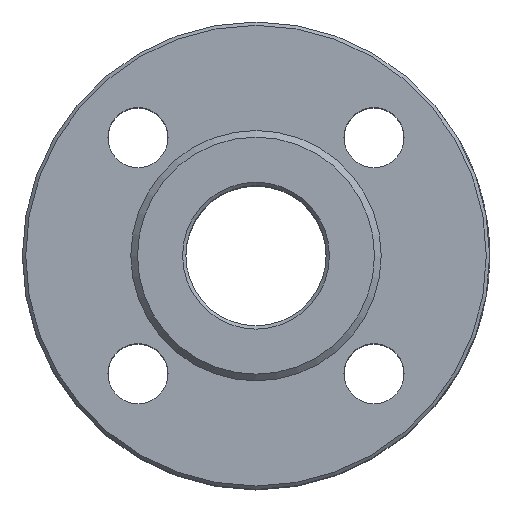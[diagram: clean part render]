
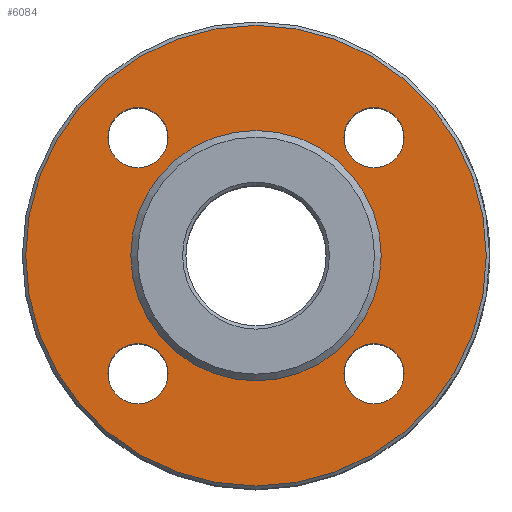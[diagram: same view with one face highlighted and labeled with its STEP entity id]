
A CAD part, top view. The second image highlights one B-rep face of the part: STEP entity #6084.
In plain terms, the highlighted planar face has unit normal (0, 0, 1).
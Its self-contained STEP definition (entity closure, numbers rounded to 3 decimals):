
#218=FACE_BOUND('',#1155,.T.);
#219=FACE_BOUND('',#1156,.T.);
#220=FACE_BOUND('',#1157,.T.);
#221=FACE_BOUND('',#1158,.T.);
#222=FACE_BOUND('',#1159,.T.);
#472=PLANE('',#6636);
#769=FACE_OUTER_BOUND('',#1154,.T.);
#1154=EDGE_LOOP('',(#5163));
#1155=EDGE_LOOP('',(#5164));
#1156=EDGE_LOOP('',(#5165));
#1157=EDGE_LOOP('',(#5166));
#1158=EDGE_LOOP('',(#5167));
#1159=EDGE_LOOP('',(#5168));
#1662=CIRCLE('',#6635,69.);
#1663=CIRCLE('',#6637,9.);
#1664=CIRCLE('',#6638,9.);
#1665=CIRCLE('',#6639,9.);
#1666=CIRCLE('',#6640,37.5);
#1667=CIRCLE('',#6641,9.);
#2856=VERTEX_POINT('',#12614);
#2857=VERTEX_POINT('',#12618);
#2858=VERTEX_POINT('',#12620);
#2859=VERTEX_POINT('',#12622);
#2860=VERTEX_POINT('',#12624);
#2861=VERTEX_POINT('',#12626);
#3637=EDGE_CURVE('',#2856,#2856,#1662,.T.);
#3638=EDGE_CURVE('',#2857,#2857,#1663,.T.);
#3639=EDGE_CURVE('',#2858,#2858,#1664,.T.);
#3640=EDGE_CURVE('',#2859,#2859,#1665,.T.);
#3641=EDGE_CURVE('',#2860,#2860,#1666,.T.);
#3642=EDGE_CURVE('',#2861,#2861,#1667,.T.);
#5163=ORIENTED_EDGE('',*,*,#3637,.T.);
#5164=ORIENTED_EDGE('',*,*,#3638,.T.);
#5165=ORIENTED_EDGE('',*,*,#3639,.T.);
#5166=ORIENTED_EDGE('',*,*,#3640,.T.);
#5167=ORIENTED_EDGE('',*,*,#3641,.T.);
#5168=ORIENTED_EDGE('',*,*,#3642,.T.);
#6084=ADVANCED_FACE('',(#769,#218,#219,#220,#221,#222),#472,.F.);
#6635=AXIS2_PLACEMENT_3D('',#12616,#8022,#8023);
#6636=AXIS2_PLACEMENT_3D('',#12617,#8024,#8025);
#6637=AXIS2_PLACEMENT_3D('',#12619,#8026,#8027);
#6638=AXIS2_PLACEMENT_3D('',#12621,#8028,#8029);
#6639=AXIS2_PLACEMENT_3D('',#12623,#8030,#8031);
#6640=AXIS2_PLACEMENT_3D('',#12625,#8032,#8033);
#6641=AXIS2_PLACEMENT_3D('',#12627,#8034,#8035);
#8022=DIRECTION('center_axis',(0.,0.,1.));
#8023=DIRECTION('ref_axis',(0.,1.,0.));
#8024=DIRECTION('center_axis',(0.,0.,-1.));
#8025=DIRECTION('ref_axis',(-1.,0.,0.));
#8026=DIRECTION('center_axis',(0.,0.,-1.));
#8027=DIRECTION('ref_axis',(-1.,0.,0.));
#8028=DIRECTION('center_axis',(0.,0.,-1.));
#8029=DIRECTION('ref_axis',(-1.,0.,0.));
#8030=DIRECTION('center_axis',(0.,0.,-1.));
#8031=DIRECTION('ref_axis',(-1.,0.,0.));
#8032=DIRECTION('center_axis',(0.,0.,-1.));
#8033=DIRECTION('ref_axis',(1.,0.,0.));
#8034=DIRECTION('center_axis',(0.,0.,-1.));
#8035=DIRECTION('ref_axis',(-1.,0.,0.));
#12614=CARTESIAN_POINT('',(0.,-69.,55.5));
#12616=CARTESIAN_POINT('Origin',(0.,0.,55.5));
#12617=CARTESIAN_POINT('Origin',(0.,0.,55.5));
#12618=CARTESIAN_POINT('',(-26.355,-35.355,55.5));
#12619=CARTESIAN_POINT('Origin',(-35.355,-35.355,55.5));
#12620=CARTESIAN_POINT('',(44.355,-35.355,55.5));
#12621=CARTESIAN_POINT('Origin',(35.355,-35.355,55.5));
#12622=CARTESIAN_POINT('',(44.355,35.355,55.5));
#12623=CARTESIAN_POINT('Origin',(35.355,35.355,55.5));
#12624=CARTESIAN_POINT('',(-37.5,0.,55.5));
#12625=CARTESIAN_POINT('Origin',(0.,0.,55.5));
#12626=CARTESIAN_POINT('',(-26.355,35.355,55.5));
#12627=CARTESIAN_POINT('Origin',(-35.355,35.355,55.5));
